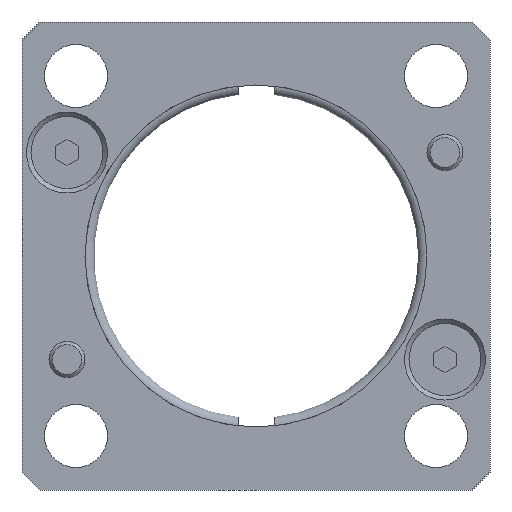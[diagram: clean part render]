
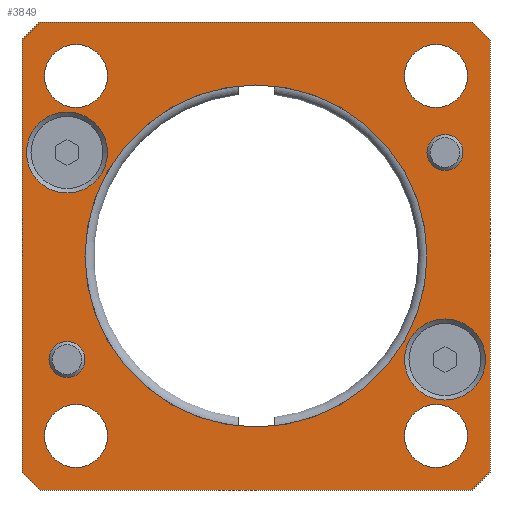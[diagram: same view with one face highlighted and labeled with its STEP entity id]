
A CAD part, front view. The second image highlights one B-rep face of the part: STEP entity #3849.
In plain terms, the highlighted planar face has unit normal (0, -1, 0) as drawn and (0, 0, -1) by its records, which use the part's own axes.
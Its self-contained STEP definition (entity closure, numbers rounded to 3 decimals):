
#151=FACE_BOUND('',#466,.T.);
#152=FACE_BOUND('',#467,.T.);
#153=FACE_BOUND('',#468,.T.);
#154=FACE_BOUND('',#469,.T.);
#155=FACE_BOUND('',#470,.T.);
#156=FACE_BOUND('',#471,.T.);
#157=FACE_BOUND('',#472,.T.);
#158=FACE_BOUND('',#473,.T.);
#159=FACE_BOUND('',#474,.T.);
#187=CIRCLE('',#4141,19.);
#195=CIRCLE('',#4151,4.5);
#197=CIRCLE('',#4154,4.5);
#198=CIRCLE('',#4155,2.);
#199=CIRCLE('',#4156,2.);
#200=CIRCLE('',#4157,3.5);
#201=CIRCLE('',#4158,3.5);
#202=CIRCLE('',#4159,3.5);
#203=CIRCLE('',#4160,3.5);
#245=FACE_OUTER_BOUND('',#465,.T.);
#465=EDGE_LOOP('',(#2597,#2598,#2599,#2600,#2601,#2602,#2603,#2604));
#466=EDGE_LOOP('',(#2605));
#467=EDGE_LOOP('',(#2606));
#468=EDGE_LOOP('',(#2607));
#469=EDGE_LOOP('',(#2608));
#470=EDGE_LOOP('',(#2609));
#471=EDGE_LOOP('',(#2610));
#472=EDGE_LOOP('',(#2611));
#473=EDGE_LOOP('',(#2612));
#474=EDGE_LOOP('',(#2613));
#720=LINE('',#5071,#1053);
#721=LINE('',#5073,#1054);
#722=LINE('',#5075,#1055);
#723=LINE('',#5077,#1056);
#724=LINE('',#5079,#1057);
#725=LINE('',#5081,#1058);
#726=LINE('',#5083,#1059);
#727=LINE('',#5084,#1060);
#1053=VECTOR('',#4344,10.);
#1054=VECTOR('',#4345,10.);
#1055=VECTOR('',#4346,10.);
#1056=VECTOR('',#4347,10.);
#1057=VECTOR('',#4348,10.);
#1058=VECTOR('',#4349,10.);
#1059=VECTOR('',#4350,10.);
#1060=VECTOR('',#4351,10.);
#1599=VERTEX_POINT('',#5047);
#1603=VERTEX_POINT('',#5063);
#1605=VERTEX_POINT('',#5069);
#1606=VERTEX_POINT('',#5070);
#1607=VERTEX_POINT('',#5072);
#1608=VERTEX_POINT('',#5074);
#1609=VERTEX_POINT('',#5076);
#1610=VERTEX_POINT('',#5078);
#1611=VERTEX_POINT('',#5080);
#1612=VERTEX_POINT('',#5082);
#1613=VERTEX_POINT('',#5085);
#1614=VERTEX_POINT('',#5087);
#1615=VERTEX_POINT('',#5089);
#1616=VERTEX_POINT('',#5091);
#1617=VERTEX_POINT('',#5093);
#1618=VERTEX_POINT('',#5095);
#1619=VERTEX_POINT('',#5097);
#1988=EDGE_CURVE('',#1599,#1599,#187,.T.);
#1998=EDGE_CURVE('',#1603,#1603,#195,.T.);
#2001=EDGE_CURVE('',#1605,#1606,#720,.T.);
#2002=EDGE_CURVE('',#1605,#1607,#721,.T.);
#2003=EDGE_CURVE('',#1608,#1607,#722,.T.);
#2004=EDGE_CURVE('',#1608,#1609,#723,.T.);
#2005=EDGE_CURVE('',#1610,#1609,#724,.T.);
#2006=EDGE_CURVE('',#1610,#1611,#725,.T.);
#2007=EDGE_CURVE('',#1612,#1611,#726,.T.);
#2008=EDGE_CURVE('',#1612,#1606,#727,.T.);
#2009=EDGE_CURVE('',#1613,#1613,#197,.T.);
#2010=EDGE_CURVE('',#1614,#1614,#198,.T.);
#2011=EDGE_CURVE('',#1615,#1615,#199,.T.);
#2012=EDGE_CURVE('',#1616,#1616,#200,.T.);
#2013=EDGE_CURVE('',#1617,#1617,#201,.T.);
#2014=EDGE_CURVE('',#1618,#1618,#202,.T.);
#2015=EDGE_CURVE('',#1619,#1619,#203,.T.);
#2597=ORIENTED_EDGE('',*,*,#2001,.F.);
#2598=ORIENTED_EDGE('',*,*,#2002,.T.);
#2599=ORIENTED_EDGE('',*,*,#2003,.F.);
#2600=ORIENTED_EDGE('',*,*,#2004,.T.);
#2601=ORIENTED_EDGE('',*,*,#2005,.F.);
#2602=ORIENTED_EDGE('',*,*,#2006,.T.);
#2603=ORIENTED_EDGE('',*,*,#2007,.F.);
#2604=ORIENTED_EDGE('',*,*,#2008,.T.);
#2605=ORIENTED_EDGE('',*,*,#2009,.F.);
#2606=ORIENTED_EDGE('',*,*,#2010,.T.);
#2607=ORIENTED_EDGE('',*,*,#2011,.T.);
#2608=ORIENTED_EDGE('',*,*,#1988,.T.);
#2609=ORIENTED_EDGE('',*,*,#2012,.T.);
#2610=ORIENTED_EDGE('',*,*,#2013,.T.);
#2611=ORIENTED_EDGE('',*,*,#2014,.T.);
#2612=ORIENTED_EDGE('',*,*,#2015,.T.);
#2613=ORIENTED_EDGE('',*,*,#1998,.F.);
#3739=PLANE('',#4153);
#3849=ADVANCED_FACE('',(#245,#151,#152,#153,#154,#155,#156,#157,#158,#159),
#3739,.F.);
#4141=AXIS2_PLACEMENT_3D('',#5048,#4315,#4316);
#4151=AXIS2_PLACEMENT_3D('',#5064,#4337,#4338);
#4153=AXIS2_PLACEMENT_3D('',#5068,#4342,#4343);
#4154=AXIS2_PLACEMENT_3D('',#5086,#4352,#4353);
#4155=AXIS2_PLACEMENT_3D('',#5088,#4354,#4355);
#4156=AXIS2_PLACEMENT_3D('',#5090,#4356,#4357);
#4157=AXIS2_PLACEMENT_3D('',#5092,#4358,#4359);
#4158=AXIS2_PLACEMENT_3D('',#5094,#4360,#4361);
#4159=AXIS2_PLACEMENT_3D('',#5096,#4362,#4363);
#4160=AXIS2_PLACEMENT_3D('',#5098,#4364,#4365);
#4315=DIRECTION('center_axis',(0.,0.,1.));
#4316=DIRECTION('ref_axis',(-1.,0.,0.));
#4337=DIRECTION('center_axis',(0.,0.,-1.));
#4338=DIRECTION('ref_axis',(1.,0.,0.));
#4342=DIRECTION('center_axis',(0.,0.,1.));
#4343=DIRECTION('ref_axis',(1.,0.,0.));
#4344=DIRECTION('',(-0.707,0.707,0.));
#4345=DIRECTION('',(0.,-1.,0.));
#4346=DIRECTION('',(0.707,0.707,0.));
#4347=DIRECTION('',(-1.,0.,0.));
#4348=DIRECTION('',(0.707,-0.707,0.));
#4349=DIRECTION('',(0.,1.,0.));
#4350=DIRECTION('',(-0.707,-0.707,0.));
#4351=DIRECTION('',(1.,0.,0.));
#4352=DIRECTION('center_axis',(0.,0.,-1.));
#4353=DIRECTION('ref_axis',(1.,0.,0.));
#4354=DIRECTION('center_axis',(0.,0.,1.));
#4355=DIRECTION('ref_axis',(1.,0.,0.));
#4356=DIRECTION('center_axis',(0.,0.,1.));
#4357=DIRECTION('ref_axis',(1.,0.,0.));
#4358=DIRECTION('center_axis',(0.,0.,1.));
#4359=DIRECTION('ref_axis',(-1.,0.,0.));
#4360=DIRECTION('center_axis',(0.,0.,1.));
#4361=DIRECTION('ref_axis',(-1.,0.,0.));
#4362=DIRECTION('center_axis',(0.,0.,1.));
#4363=DIRECTION('ref_axis',(-1.,0.,0.));
#4364=DIRECTION('center_axis',(0.,0.,1.));
#4365=DIRECTION('ref_axis',(-1.,0.,0.));
#5047=CARTESIAN_POINT('',(19.,0.,0.));
#5048=CARTESIAN_POINT('Origin',(0.,0.,0.));
#5063=CARTESIAN_POINT('',(16.5,11.5,0.));
#5064=CARTESIAN_POINT('Origin',(21.,11.5,0.));
#5068=CARTESIAN_POINT('Origin',(0.,0.,
0.));
#5069=CARTESIAN_POINT('',(26.,24.,0.));
#5070=CARTESIAN_POINT('',(24.,26.,0.));
#5071=CARTESIAN_POINT('',(25.,25.,0.));
#5072=CARTESIAN_POINT('',(26.,-24.,0.));
#5073=CARTESIAN_POINT('',(26.,26.,0.));
#5074=CARTESIAN_POINT('',(24.,-26.,0.));
#5075=CARTESIAN_POINT('',(25.,-25.,0.));
#5076=CARTESIAN_POINT('',(-24.,-26.,0.));
#5077=CARTESIAN_POINT('',(26.,-26.,0.));
#5078=CARTESIAN_POINT('',(-26.,-24.,0.));
#5079=CARTESIAN_POINT('',(-25.,-25.,0.));
#5080=CARTESIAN_POINT('',(-26.,24.,0.));
#5081=CARTESIAN_POINT('',(-26.,-26.,0.));
#5082=CARTESIAN_POINT('',(-24.,26.,0.));
#5083=CARTESIAN_POINT('',(-25.,25.,0.));
#5084=CARTESIAN_POINT('',(-26.,26.,0.));
#5085=CARTESIAN_POINT('',(-25.5,-11.5,0.));
#5086=CARTESIAN_POINT('Origin',(-21.,-11.5,0.));
#5087=CARTESIAN_POINT('',(19.,-11.5,0.));
#5088=CARTESIAN_POINT('Origin',(21.,-11.5,0.));
#5089=CARTESIAN_POINT('',(-23.,11.5,0.));
#5090=CARTESIAN_POINT('Origin',(-21.,11.5,0.));
#5091=CARTESIAN_POINT('',(23.5,-20.,0.));
#5092=CARTESIAN_POINT('Origin',(20.,-20.,0.));
#5093=CARTESIAN_POINT('',(-16.5,-20.,0.));
#5094=CARTESIAN_POINT('Origin',(-20.,-20.,0.));
#5095=CARTESIAN_POINT('',(23.5,20.,0.));
#5096=CARTESIAN_POINT('Origin',(20.,20.,0.));
#5097=CARTESIAN_POINT('',(-16.5,20.,0.));
#5098=CARTESIAN_POINT('Origin',(-20.,20.,0.));
